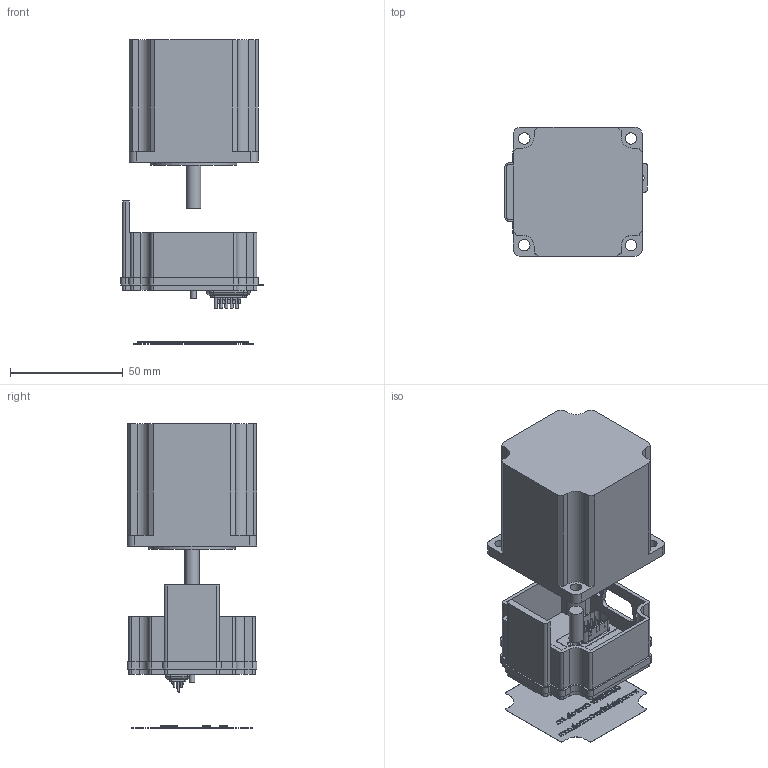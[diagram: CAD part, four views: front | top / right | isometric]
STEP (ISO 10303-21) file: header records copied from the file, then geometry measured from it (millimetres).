
FILE_DESCRIPTION(/* description */ ('Alibre Inc.'),/* implementation_level */ '2;1');
FILE_NAME(/* name */ 'export0',/* time_stamp */ '2008-02-02T08:41:32-08:00',/* author */ (''),/* organization */ (''),/* preprocessor_version */ 'ST-DEVELOPER v10',/* originating_system */ 'Alibre',/* authorisation */ '');
FILE_SCHEMA (('ALIBRE_SCHEMA','CONFIG_CONTROL_DESIGN'));
Length unit declared in the file: inch
Products named in the file (9): ID_1
Bounding box: 63.07 x 57.4 x 134.78 mm (x, y, z)
Volume: 180206 mm3; surface area: 44662.3 mm2
Topology: 63 solids, 63 shells, 1779 faces, 4603 edges, 3018 vertices
Faces by surface type: plane 798, bspline 641, cylinder 289, torus 50, cone 1
Full cylindrical faces by diameter (mm): 2.489 x1, 2.87 x1, 3.175 x2, 5.08 x4, 6.35 x2, 8.89 x1, 38.1 x1
Entity records: 111408 total; most frequent: CARTESIAN_POINT 33950, ORIENTED_EDGE 12004, DIRECTION 8298, EDGE_CURVE 5972, CONSTRAINTPAIRUV 4720, VECTOR 4347, LINE 4037, VERTEX_POINT 3897
